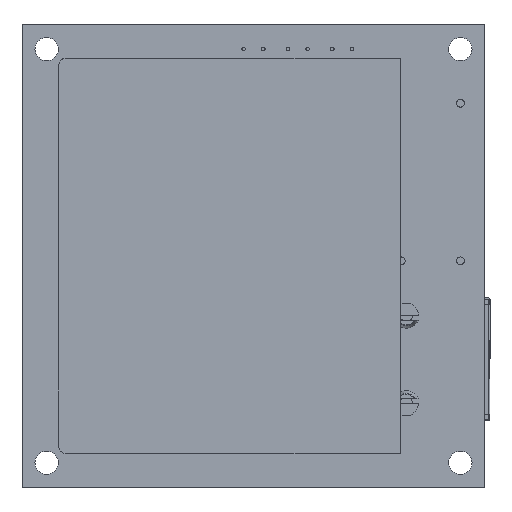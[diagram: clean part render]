
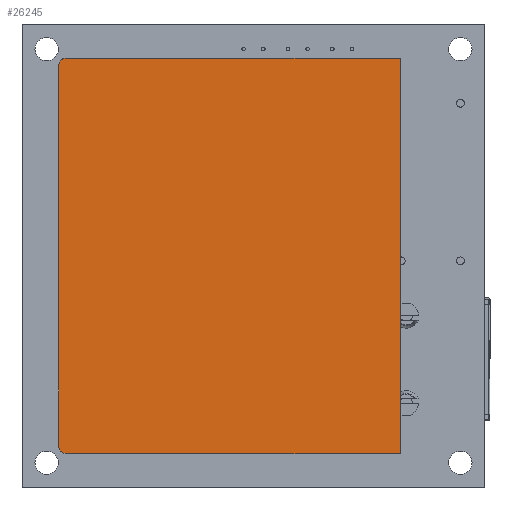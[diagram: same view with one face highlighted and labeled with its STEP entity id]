
A CAD part, front view. The second image highlights one B-rep face of the part: STEP entity #26245.
In plain terms, the highlighted planar face has unit normal (0, -1, 0).
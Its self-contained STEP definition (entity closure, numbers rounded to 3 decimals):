
#8128 = LINE ( 'NONE', #8155, #9015 ) ;
#8149 = LINE ( 'NONE', #8167, #9016 ) ;
#8153 = LINE ( 'NONE', #8172, #9020 ) ;
#8155 = CARTESIAN_POINT ( 'NONE',  ( -3.5, 0., -25.5 ) ) ;
#8156 = DIRECTION ( 'NONE',  ( 0., 0., 1. ) ) ;
#8167 = CARTESIAN_POINT ( 'NONE',  ( -3.5, 0., 25.5 ) ) ;
#8168 = DIRECTION ( 'NONE',  ( 1., 0., 0. ) ) ;
#8172 = CARTESIAN_POINT ( 'NONE',  ( 40.5, 0., 25.5 ) ) ;
#8173 = DIRECTION ( 'NONE',  ( 0., 0., -1. ) ) ;
#8179 = LINE ( 'NONE', #8180, #9025 ) ;
#8180 = CARTESIAN_POINT ( 'NONE',  ( 40.5, 0., -25.5 ) ) ;
#8181 = DIRECTION ( 'NONE',  ( -1., 0., 0. ) ) ;
#8194 = CARTESIAN_POINT ( 'NONE',  ( -2.5, 0., -24.5 ) ) ;
#8195 = DIRECTION ( 'NONE',  ( 0., -1., 0. ) ) ;
#8196 = DIRECTION ( 'NONE',  ( 0., 0., 1. ) ) ;
#8197 = CARTESIAN_POINT ( 'NONE',  ( -2.5, 0., 24.5 ) ) ;
#8198 = DIRECTION ( 'NONE',  ( 0., -1., 0. ) ) ;
#8199 = DIRECTION ( 'NONE',  ( 0., 0., 1. ) ) ;
#9015 = VECTOR ( 'NONE', #8156, 1000. ) ;
#9016 = VECTOR ( 'NONE', #8168, 1000. ) ;
#9020 = VECTOR ( 'NONE', #8173, 1000. ) ;
#9024 = CIRCLE ( 'NONE', #9036, 1. ) ;
#9025 = VECTOR ( 'NONE', #8181, 1000. ) ;
#9031 = CIRCLE ( 'NONE', #9034, 1. ) ;
#9034 = AXIS2_PLACEMENT_3D ( 'NONE', #8194, #8195, #8196 ) ;
#9036 = AXIS2_PLACEMENT_3D ( 'NONE', #8197, #8198, #8199 ) ;
#13144 = AXIS2_PLACEMENT_3D ( 'NONE', #14232, #14238, #14239 ) ;
#14230 = PLANE ( 'NONE',  #13144 ) ;
#14232 = CARTESIAN_POINT ( 'NONE',  ( -3.5, 0., 25.5 ) ) ;
#14236 = FACE_OUTER_BOUND ( 'NONE', #26888, .T. ) ;
#14238 = DIRECTION ( 'NONE',  ( 0., 1., 0. ) ) ;
#14239 = DIRECTION ( 'NONE',  ( 0., 0., 1. ) ) ;
#14916 = CARTESIAN_POINT ( 'NONE',  ( -3.5, 0., -24.5 ) ) ;
#14917 = CARTESIAN_POINT ( 'NONE',  ( -3.5, 0., 24.5 ) ) ;
#14918 = CARTESIAN_POINT ( 'NONE',  ( 40.5, 0., -25.5 ) ) ;
#14919 = CARTESIAN_POINT ( 'NONE',  ( -2.5, 0., -25.5 ) ) ;
#14920 = CARTESIAN_POINT ( 'NONE',  ( -2.5, 0., 25.5 ) ) ;
#14921 = CARTESIAN_POINT ( 'NONE',  ( 40.5, 0., 25.5 ) ) ;
#25549 = EDGE_CURVE ( 'NONE', #26550, #26551, #8128, .T. ) ;
#25553 = EDGE_CURVE ( 'NONE', #26554, #26555, #8149, .T. ) ;
#25555 = EDGE_CURVE ( 'NONE', #26555, #26552, #8153, .T. ) ;
#25558 = EDGE_CURVE ( 'NONE', #26552, #26553, #8179, .T. ) ;
#25563 = EDGE_CURVE ( 'NONE', #26550, #26553, #9031, .T. ) ;
#25564 = EDGE_CURVE ( 'NONE', #26554, #26551, #9024, .T. ) ;
#26245 = ADVANCED_FACE ( 'NONE', ( #14236 ), #14230, .F. ) ;
#26550 = VERTEX_POINT ( 'NONE', #14916 ) ;
#26551 = VERTEX_POINT ( 'NONE', #14917 ) ;
#26552 = VERTEX_POINT ( 'NONE', #14918 ) ;
#26553 = VERTEX_POINT ( 'NONE', #14919 ) ;
#26554 = VERTEX_POINT ( 'NONE', #14920 ) ;
#26555 = VERTEX_POINT ( 'NONE', #14921 ) ;
#26888 = EDGE_LOOP ( 'NONE', ( #27667, #27668, #27669, #27670, #27671, #27672 ) ) ;
#27667 = ORIENTED_EDGE ( 'NONE', *, *, #25549, .F. ) ;
#27668 = ORIENTED_EDGE ( 'NONE', *, *, #25563, .T. ) ;
#27669 = ORIENTED_EDGE ( 'NONE', *, *, #25558, .F. ) ;
#27670 = ORIENTED_EDGE ( 'NONE', *, *, #25555, .F. ) ;
#27671 = ORIENTED_EDGE ( 'NONE', *, *, #25553, .F. ) ;
#27672 = ORIENTED_EDGE ( 'NONE', *, *, #25564, .T. ) ;
